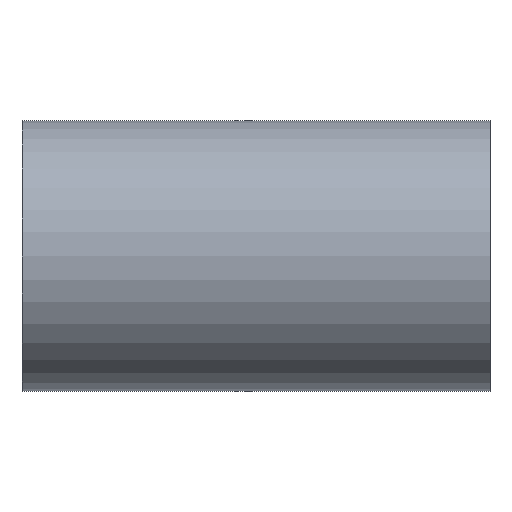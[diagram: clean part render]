
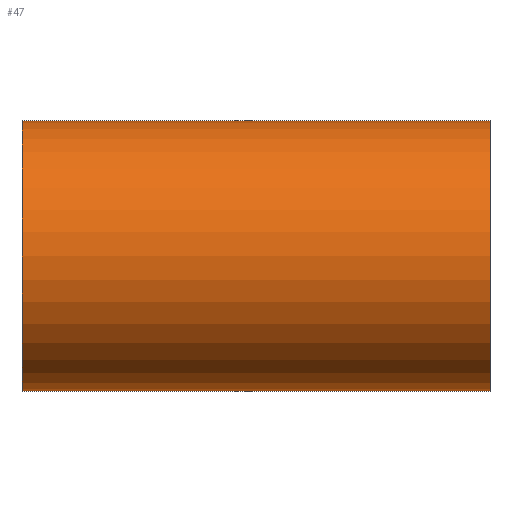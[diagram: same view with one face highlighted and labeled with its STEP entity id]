
A CAD part, front view. The second image highlights one B-rep face of the part: STEP entity #47.
In plain terms, the highlighted cylindrical face has radius 38.1 mm (diameter 76.2 mm), a partial arc.
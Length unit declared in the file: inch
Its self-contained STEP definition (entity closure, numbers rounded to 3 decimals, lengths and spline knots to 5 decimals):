
#41 = DIRECTION ( 'NONE',  ( 1., 0., 0. ) ) ;
#47 = ADVANCED_FACE ( 'NONE', ( #285 ), #331, .T. ) ;
#72 = CARTESIAN_POINT ( 'NONE',  ( 2.5935, 0., 0. ) ) ;
#85 = CARTESIAN_POINT ( 'NONE',  ( -2.5935, 0., -1.5 ) ) ;
#90 = ORIENTED_EDGE ( 'NONE', *, *, #348, .F. ) ;
#97 = EDGE_LOOP ( 'NONE', ( #335, #90, #120, #447 ) ) ;
#120 = ORIENTED_EDGE ( 'NONE', *, *, #578, .T. ) ;
#137 = DIRECTION ( 'NONE',  ( 1., 0., 0. ) ) ;
#141 = LINE ( 'NONE', #384, #259 ) ;
#145 = VECTOR ( 'NONE', #385, 39.37008 ) ;
#146 = CARTESIAN_POINT ( 'NONE',  ( 2.5935, 0., 1.5 ) ) ;
#148 = CIRCLE ( 'NONE', #443, 1.5 ) ;
#207 = DIRECTION ( 'NONE',  ( 0., 0., 1. ) ) ;
#242 = CARTESIAN_POINT ( 'NONE',  ( 2.5935, 0., 1.5 ) ) ;
#259 = VECTOR ( 'NONE', #423, 39.37008 ) ;
#261 = EDGE_CURVE ( 'NONE', #299, #465, #571, .T. ) ;
#272 = LINE ( 'NONE', #242, #145 ) ;
#285 = FACE_OUTER_BOUND ( 'NONE', #97, .T. ) ;
#299 = VERTEX_POINT ( 'NONE', #411 ) ;
#302 = DIRECTION ( 'NONE',  ( -1., 0., 0. ) ) ;
#314 = CARTESIAN_POINT ( 'NONE',  ( -2.5935, 0., 0. ) ) ;
#331 = CYLINDRICAL_SURFACE ( 'NONE', #514, 1.5 ) ;
#335 = ORIENTED_EDGE ( 'NONE', *, *, #565, .F. ) ;
#348 = EDGE_CURVE ( 'NONE', #575, #586, #148, .T. ) ;
#372 = DIRECTION ( 'NONE',  ( 0., 0., -1. ) ) ;
#384 = CARTESIAN_POINT ( 'NONE',  ( 2.5935, 0., -1.5 ) ) ;
#385 = DIRECTION ( 'NONE',  ( -1., 0., 0. ) ) ;
#411 = CARTESIAN_POINT ( 'NONE',  ( -2.5935, 0., 1.5 ) ) ;
#413 = CARTESIAN_POINT ( 'NONE',  ( 2.5935, 0., 0. ) ) ;
#423 = DIRECTION ( 'NONE',  ( -1., 0., 0. ) ) ;
#424 = CARTESIAN_POINT ( 'NONE',  ( 2.5935, 0., -1.5 ) ) ;
#443 = AXIS2_PLACEMENT_3D ( 'NONE', #413, #137, #453 ) ;
#447 = ORIENTED_EDGE ( 'NONE', *, *, #261, .T. ) ;
#453 = DIRECTION ( 'NONE',  ( 0., 0., -1. ) ) ;
#465 = VERTEX_POINT ( 'NONE', #85 ) ;
#489 = AXIS2_PLACEMENT_3D ( 'NONE', #314, #41, #372 ) ;
#514 = AXIS2_PLACEMENT_3D ( 'NONE', #72, #302, #207 ) ;
#565 = EDGE_CURVE ( 'NONE', #586, #465, #141, .T. ) ;
#571 = CIRCLE ( 'NONE', #489, 1.5 ) ;
#575 = VERTEX_POINT ( 'NONE', #146 ) ;
#578 = EDGE_CURVE ( 'NONE', #575, #299, #272, .T. ) ;
#586 = VERTEX_POINT ( 'NONE', #424 ) ;
